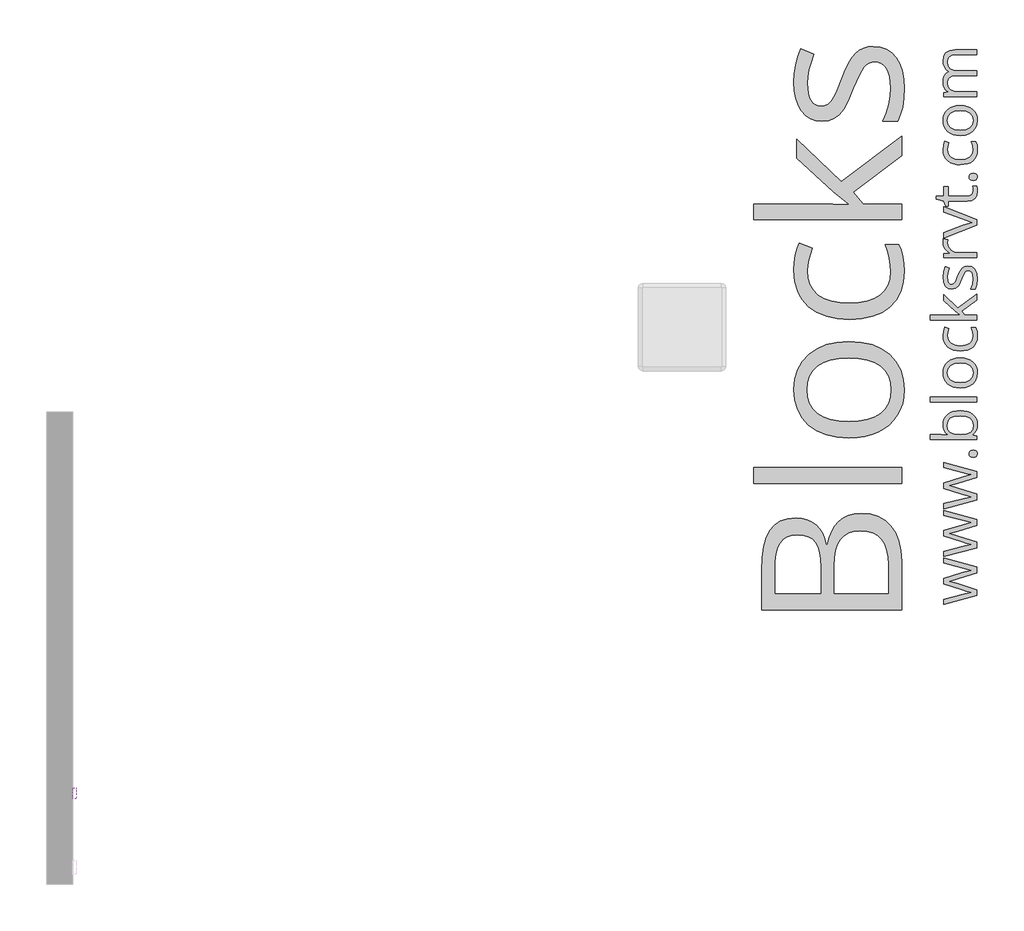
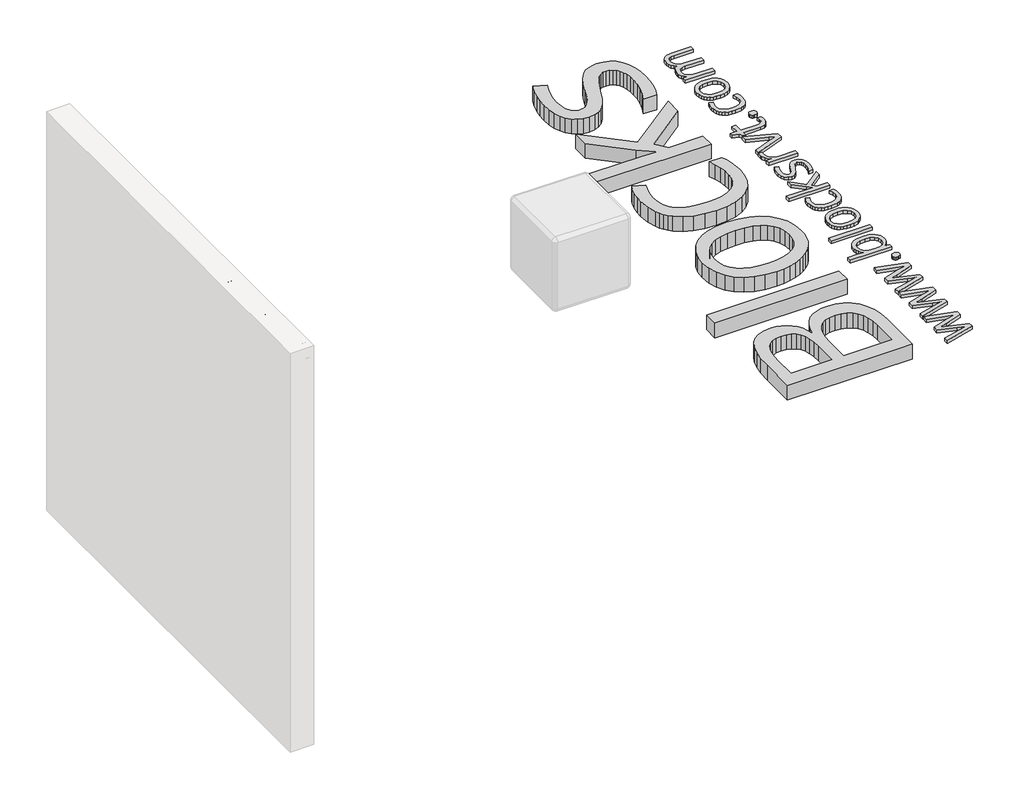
# One storey, part 8 of 8: 3 proxies.
"""IFC4 building model written with IfcOpenShell, lengths in millimetres."""

from ifc_helpers import new_model, si_unit, frame, origin, origin_with_axes, place, context, project, spatial, polyline, outline, extrude, element, save

model = new_model("IFC4")

# Units and contexts
model_context = context("Model", 3, world=origin())
ifc_project = project(units=[si_unit("LENGTHUNIT", "METRE", prefix="MILLI")], contexts=[model_context])

# Site, building, storey
site = spatial("IfcSite", under=ifc_project)
building = spatial("IfcBuilding", under=site)
storey = spatial("IfcBuildingStorey", under=building, Name="PORTOBELLO - SHOWROOM", Elevation=0.0)

# Proxies
placement = place(None, origin())
element("IfcBuildingElementProxy", 1, Name="10mm Arial Narrow", ObjectType="10mm Arial Narrow", at=placement, inside=storey, context=model_context, shape_type="SweptSolid", body=[
    extrude(outline(polyline([(7462.2235233, 2548.8308244), (7462.2235233, 2649.5494281), (7493.520408, 2649.5494281), (7509.8161095, 2647.6711074), (7521.2890956, 2638.1906642), (7525.5787741, 2621.1715554), (7523.7924657, 2609.0957299), (7518.4335405, 2599.4693361), (7508.6897516, 2593.1680777), (7493.7488524, 2591.0676582), (7471.970485, 2591.0676582), (7471.970485, 2548.8308244), (7462.2235233, 2548.8308244)]), holes=[polyline([(7471.970485, 2602.4391135), (7494.9418399, 2602.4391135), (7510.8060353, 2606.9699277), (7515.8318124, 2620.6385184), (7513.3569979, 2630.8042949), (7507.3793691, 2636.6042447), (7494.7133955, 2638.1779729), (7471.970485, 2638.1779729), (7471.970485, 2602.4391135)])]), frame((-9585.374587, 0.0, 0.0), z_axis=(1.0, 0.0, 0.0), x_axis=(0.0, 1.0, 0.0)), (0.0, 0.0, 1.0), 20.0),
    extrude(outline(polyline([(7533.7012421, 2585.3819306), (7535.655711, 2601.9727061), (7541.5191176, 2613.9247909), (7550.3776843, 2621.1493455), (7561.3176335, 2623.5575304), (7572.130669, 2621.1493455), (7581.0146185, 2613.9247909), (7586.9541732, 2602.1630765), (7588.9340248, 2586.143412), (7586.9890745, 2568.9815254), (7581.1542234, 2556.8390702), (7572.3051752, 2549.6145156), (7561.3176335, 2547.2063308), (7550.4570053, 2549.6208613), (7541.5825744, 2556.8644529), (7535.6715752, 2568.8228834), (7533.7012421, 2585.3819306)]), holes=[polyline([(7543.4482038, 2585.4073133), (7544.7522406, 2572.8555619), (7548.6643512, 2563.9843038), (7554.505548, 2558.7110453), (7561.5968433, 2556.9532924), (7568.3169165, 2558.7269095), (7574.0089898, 2564.0477606), (7577.8925448, 2572.9348829), (7579.1870632, 2585.4073133), (7577.8830263, 2597.9209906), (7573.9709157, 2606.7795573), (7568.129719, 2612.0528159), (7561.0384236, 2613.8105687), (7554.2707579, 2612.0432974), (7548.5882031, 2606.7414833), (7544.7332036, 2597.873398), (7543.4482038, 2585.4073133)])]), frame((-9585.374587, 0.0, 0.0), z_axis=(1.0, 0.0, 0.0), x_axis=(0.0, 1.0, 0.0)), (0.0, 0.0, 1.0), 20.0),
    extrude(outline(polyline([(7660.4117436, 2556.9532924), (7662.0362372, 2547.2063308), (7654.6752505, 2547.2063308), (7646.4004862, 2549.3257873), (7642.0854251, 2555.1257371), (7640.9178203, 2569.7715623), (7640.9178203, 2612.1860751), (7632.7953522, 2612.1860751), (7632.7953522, 2615.4350624), (7631.1708586, 2610.5615815), (7623.6068103, 2612.1860751), (7617.5276506, 2609.8635569), (7613.6567869, 2603.3782738), (7611.6769353, 2587.9709673), (7611.6769353, 2548.8308244), (7601.9299737, 2548.8308244), (7601.9299737, 2621.9330368), (7611.6769353, 2621.9330368), (7611.6769353, 2612.2368406), (7617.9210826, 2621.3238517), (7624.3175262, 2623.5575304), (7632.7953522, 2621.9330368), (7640.9178203, 2621.9330368), (7640.9178203, 2638.1779729), (7650.6647819, 2646.3004409), (7650.6647819, 2621.9330368), (7660.4117436, 2621.9330368), (7660.4117436, 2612.1860751), (7650.6647819, 2612.1860751), (7650.6647819, 2567.5378836), (7651.5277942, 2559.5423291), (7656.1474479, 2556.9532924), (7660.4117436, 2556.9532924)])), frame((-9585.374587, 0.0, 0.0), z_axis=(1.0, 0.0, 0.0), x_axis=(0.0, 1.0, 0.0)), (0.0, 0.0, 1.0), 20.0),
    extrude(outline(polyline([(7666.909718, 2585.3819306), (7668.8641869, 2601.9727061), (7674.7275935, 2613.9247909), (7683.5861602, 2621.1493455), (7694.5261094, 2623.5575304), (7705.339145, 2621.1493455), (7714.2230944, 2613.9247909), (7720.1626492, 2602.1630765), (7722.1425007, 2586.143412), (7720.1975504, 2568.9815254), (7714.3626993, 2556.8390702), (7705.5136511, 2549.6145156), (7694.5261094, 2547.2063308), (7683.6654812, 2549.6208613), (7674.7910503, 2556.8644529), (7668.8800511, 2568.8228834), (7666.909718, 2585.3819306)]), holes=[polyline([(7676.6566797, 2585.4073133), (7677.9607166, 2572.8555619), (7681.8728271, 2563.9843038), (7687.7140239, 2558.7110453), (7694.8053192, 2556.9532924), (7701.5253924, 2558.7269095), (7707.2174657, 2564.0477606), (7711.1010207, 2572.9348829), (7712.3955391, 2585.4073133), (7711.0915022, 2597.9209906), (7707.1793916, 2606.7795573), (7701.3381949, 2612.0528159), (7694.2468995, 2613.8105687), (7687.4792338, 2612.0432974), (7681.796679, 2606.7414833), (7677.9416795, 2597.873398), (7676.6566797, 2585.4073133)])]), frame((-9585.374587, 0.0, 0.0), z_axis=(1.0, 0.0, 0.0), x_axis=(0.0, 1.0, 0.0)), (0.0, 0.0, 1.0), 20.0),
    extrude(outline(polyline([(7744.8854113, 2548.8308244), (7735.1384496, 2548.8308244), (7735.1384496, 2649.5494281), (7744.8854113, 2649.5494281), (7744.8854113, 2614.140544), (7752.284472, 2621.2223208), (7761.4857053, 2623.5575304), (7774.367432, 2619.3566915), (7783.6448135, 2606.6272611), (7787.1222451, 2585.9403503), (7785.1899861, 2569.4860068), (7779.3932091, 2557.2832677), (7771.0200868, 2549.725565), (7761.3587918, 2547.2063308), (7752.0179535, 2549.8207502), (7744.8854113, 2557.5878602), (7744.8854113, 2548.8308244)]), holes=[polyline([(7744.8854113, 2585.9403503), (7746.9667937, 2568.692797), (7752.855583, 2559.9611439), (7761.3080263, 2556.9532924), (7767.2507539, 2558.7427737), (7772.4891113, 2564.1112174), (7777.3752834, 2585.5342269), (7772.6667902, 2606.9699277), (7767.4220872, 2612.1004085), (7761.1049646, 2613.8105687), (7755.1273358, 2612.0210875), (7749.8350402, 2606.6526438), (7744.8854113, 2585.9403503)])]), frame((-9585.374587, 0.0, 0.0), z_axis=(1.0, 0.0, 0.0), x_axis=(0.0, 1.0, 0.0)), (0.0, 0.0, 1.0), 20.0),
    extrude(outline(polyline([(7839.1060406, 2571.5737349), (7848.8530022, 2569.9492413), (7845.1534719, 2560.0626747), (7839.334485, 2552.9428238), (7831.6308317, 2548.640454), (7822.2773021, 2547.2063308), (7810.6837481, 2549.6208613), (7801.5396259, 2556.8644529), (7795.6000711, 2568.6705872), (7793.6202195, 2584.7727455), (7795.6095896, 2601.4396692), (7801.5776999, 2613.6201984), (7810.5917358, 2621.0731974), (7821.7188824, 2623.5575304), (7832.4018316, 2621.1588641), (7841.1493489, 2613.962865), (7846.9842, 2602.2233604), (7848.9291504, 2586.1941774), (7848.8530022, 2582.9451902), (7803.3671812, 2582.9451902), (7809.3701927, 2563.5020323), (7815.300229, 2558.5904774), (7822.4042157, 2556.9532924), (7832.5826834, 2560.608403), (7839.1060406, 2571.5737349)]), holes=[polyline([(7804.0271317, 2592.6921518), (7839.1060406, 2592.6921518), (7834.8417449, 2606.9572363), (7829.0164123, 2612.0972356), (7821.7950306, 2613.8105687), (7809.5859458, 2608.0994584), (7804.0271317, 2592.6921518)])]), frame((-9585.374587, 0.0, 0.0), z_axis=(1.0, 0.0, 0.0), x_axis=(0.0, 1.0, 0.0)), (0.0, 0.0, 1.0), 20.0),
    extrude(outline(polyline([(-9565.374587, 7871.5959128), (-9565.374587, 7861.8489511), (-9585.374587, 7861.8489511), (-9585.374587, 7871.5959128), (-9565.374587, 7871.5959128)])), frame((0.0, 0.0, 2548.8308244), z_axis=(0.0, 0.0, 1.0), x_axis=(1.0, 0.0, 0.0)), (0.0, 0.0, 1.0), 100.7186038),
    extrude(outline(polyline([(-9565.374587, 7897.5878105), (-9565.374587, 7887.8408488), (-9585.374587, 7887.8408488), (-9585.374587, 7897.5878105), (-9565.374587, 7897.5878105)])), frame((0.0, 0.0, 2548.8308244), z_axis=(0.0, 0.0, 1.0), x_axis=(1.0, 0.0, 0.0)), (0.0, 0.0, 1.0), 100.7186038),
    extrude(outline(polyline([(7908.9592658, 2585.3819306), (7910.9137346, 2601.9727061), (7916.7771413, 2613.9247909), (7925.635708, 2621.1493455), (7936.5756571, 2623.5575304), (7947.3886927, 2621.1493455), (7956.2726421, 2613.9247909), (7962.2121969, 2602.1630765), (7964.1920485, 2586.143412), (7962.2470981, 2568.9815254), (7956.412247, 2556.8390702), (7947.5631988, 2549.6145156), (7936.5756571, 2547.2063308), (7925.7150289, 2549.6208613), (7916.840598, 2556.8644529), (7910.9295988, 2568.8228834), (7908.9592658, 2585.3819306)]), holes=[polyline([(7918.7062274, 2585.4073133), (7920.0102643, 2572.8555619), (7923.9223749, 2563.9843038), (7929.7635716, 2558.7110453), (7936.854867, 2556.9532924), (7943.5749401, 2558.7269095), (7949.2670134, 2564.0477606), (7953.1505685, 2572.9348829), (7954.4450868, 2585.4073133), (7953.14105, 2597.9209906), (7949.2289394, 2606.7795573), (7943.3877426, 2612.0528159), (7936.2964473, 2613.8105687), (7929.5287815, 2612.0432974), (7923.8462267, 2606.7414833), (7919.9912272, 2597.873398), (7918.7062274, 2585.4073133)])]), frame((-9585.374587, 0.0, 0.0), z_axis=(1.0, 0.0, 0.0), x_axis=(0.0, 1.0, 0.0)), (0.0, 0.0, 1.0), 20.0),
])
element("IfcBuildingElementProxy", 2, Name="25mm OpenSans", ObjectType="25mm OpenSans", at=placement, inside=storey, context=model_context, shape_type="SweptSolid", body=[
    extrude(outline(polyline([(-4417.6445839, 8753.3703802), (-4527.4562273, 8718.8902738), (-4573.1798467, 8706.672323), (-4527.0814435, 8693.2550642), (-4417.6445839, 8657.7255632), (-4417.6445839, 8624.8195486), (-4604.7366397, 8573.4741727), (-4604.7366397, 8603.3069605), (-4497.3985693, 8631.0409591), (-4447.7022419, 8641.9846451), (-4472.887711, 8649.4053636), (-4497.3985693, 8656.7511254), (-4604.7366397, 8691.2312319), (-4604.7366397, 8722.1134142), (-4497.3236125, 8755.7689963), (-4448.002069, 8768.8114714), (-4466.9661275, 8773.9085306), (-4604.7366397, 8809.6629018), (-4604.7366397, 8839.1958626), (-4417.6445839, 8787.1758759), (-4417.6445839, 8753.3703802)])), origin_with_axes(), (0.0, 0.0, 1.0), 20.0),
    extrude(outline(polyline([(-4417.6445839, 9026.8126157), (-4527.4562273, 8992.3325092), (-4573.1798467, 8980.1145585), (-4527.0814435, 8966.6972996), (-4417.6445839, 8931.1677987), (-4417.6445839, 8898.261784), (-4604.7366397, 8846.9164081), (-4604.7366397, 8876.7491959), (-4497.3985693, 8904.4831945), (-4447.7022419, 8915.4268805), (-4472.887711, 8922.8475991), (-4497.3985693, 8930.1933609), (-4604.7366397, 8964.6734673), (-4604.7366397, 8995.5556496), (-4497.3236125, 9029.2112318), (-4448.002069, 9042.2537068), (-4466.9661275, 9047.350766), (-4604.7366397, 9083.1051373), (-4604.7366397, 9112.638098), (-4417.6445839, 9060.6181113), (-4417.6445839, 9026.8126157)])), origin_with_axes(), (0.0, 0.0, 1.0), 20.0),
    extrude(outline(polyline([(-4417.6445839, 9300.2548511), (-4527.4562273, 9265.7747446), (-4573.1798467, 9253.5567939), (-4527.0814435, 9240.1395351), (-4417.6445839, 9204.6100341), (-4417.6445839, 9171.7040195), (-4604.7366397, 9120.3586436), (-4604.7366397, 9150.1914313), (-4497.3985693, 9177.92543), (-4447.7022419, 9188.8691159), (-4472.887711, 9196.2898345), (-4497.3985693, 9203.6355963), (-4604.7366397, 9238.1157027), (-4604.7366397, 9268.997885), (-4497.3236125, 9302.6534672), (-4448.002069, 9315.6959422), (-4466.9661275, 9320.7930014), (-4604.7366397, 9356.5473727), (-4604.7366397, 9386.0803334), (-4417.6445839, 9334.0603467), (-4417.6445839, 9300.2548511)])), origin_with_axes(), (0.0, 0.0, 1.0), 20.0),
    extrude(outline(polyline([(-4436.758556, 9415.2385104), (-4447.1681751, 9416.540884), (-4454.7106984, 9420.4480047), (-4459.2924299, 9426.79122), (-4460.8196737, 9435.401877), (-4459.2924299, 9444.265513), (-4454.7106984, 9450.9179249), (-4447.1681751, 9455.0780247), (-4436.758556, 9456.4647246), (-4426.555068, 9455.0499159), (-4419.0312839, 9450.8054897), (-4414.3933348, 9444.1249691), (-4412.8473517, 9435.401877), (-4418.4316298, 9420.972702), (-4425.8055004, 9416.6720583), (-4436.758556, 9415.2385104)])), origin_with_axes(), (0.0, 0.0, 1.0), 20.0),
    extrude(outline(polyline([(-4609.5338719, 9603.604831), (-4607.9340137, 9621.1892168), (-4603.1344391, 9636.6888679), (-4595.1351482, 9650.1037843), (-4583.9361408, 9661.433966), (-4569.81382, 9670.4358036), (-4553.0445889, 9676.8656876), (-4511.5653956, 9682.0095948), (-4469.9456584, 9676.8188396), (-4453.056965, 9670.3303957), (-4438.7823883, 9661.2465742), (-4427.4358098, 9649.8625173), (-4419.3311109, 9636.4733672), (-4414.4682915, 9621.0791241), (-4412.8473517, 9603.6797877), (-4414.5619875, 9586.036842), (-4419.7058946, 9569.9867272), (-4428.4102476, 9555.979184), (-4440.8062206, 9544.4639528), (-4440.8062206, 9542.3651637), (-4417.6445839, 9536.3686234), (-4417.6445839, 9516.0553433), (-4681.492355, 9516.0553433), (-4681.492355, 9544.388996), (-4618.9034661, 9544.388996), (-4581.1252625, 9543.0397745), (-4593.5540291, 9555.5950306), (-4602.4317196, 9569.1996813), (-4607.7583339, 9585.2029481), (-4609.5338719, 9603.604831)]), holes=[polyline([(-4585.5477109, 9599.6321231), (-4581.3126544, 9574.3623277), (-4568.6074847, 9557.3190359), (-4545.8768494, 9547.621506), (-4511.5653956, 9544.388996), (-4477.1133979, 9547.7152019), (-4454.1110443, 9557.6938197), (-4441.1528956, 9574.9994601), (-4436.8335127, 9600.3067339), (-4441.6775929, 9623.3840442), (-4456.2098334, 9639.6965076), (-4479.8118411, 9649.3940376), (-4511.8652226, 9652.6265475), (-4544.3121271, 9649.3940376), (-4567.2957416, 9639.6965076), (-4580.9847186, 9623.2153915), (-4585.5477109, 9599.6321231)])]), origin_with_axes(), (0.0, 0.0, 1.0), 20.0),
    extrude(outline(polyline([(-4417.6445839, 9759.2900072), (-4417.6445839, 9730.9563546), (-4681.492355, 9730.9563546), (-4681.492355, 9759.2900072), (-4417.6445839, 9759.2900072)])), origin_with_axes(), (0.0, 0.0, 1.0), 20.0),
    extrude(outline(polyline([(-4511.3405253, 9984.2352234), (-4489.4133327, 9982.7946483), (-4470.0299848, 9978.472923), (-4453.1904817, 9971.2700475), (-4438.8948234, 9961.1860218), (-4427.4990546, 9948.5675209), (-4419.3592197, 9933.7612198), (-4414.4753187, 9916.7671184), (-4412.8473517, 9897.5852168), (-4415.8362523, 9873.8895132), (-4424.8029539, 9853.023427), (-4439.3539336, 9835.7927434), (-4459.0956684, 9823.0032474), (-4483.3254389, 9815.0765708), (-4511.3405253, 9812.4343452), (-4533.2583484, 9813.8632083), (-4552.6135875, 9818.1497976), (-4569.4062426, 9825.2941132), (-4583.6363137, 9835.2961549), (-4594.9664955, 9847.8373567), (-4603.0594824, 9862.5991523), (-4607.9152746, 9879.5815416), (-4609.5338719, 9898.7845248), (-4607.8777962, 9917.3808268), (-4602.9095689, 9933.9673508), (-4594.6291901, 9948.5440969), (-4583.0366597, 9961.1110651), (-4568.6191967, 9971.2278843), (-4551.86402, 9978.4541838), (-4532.7711295, 9982.7899635), (-4511.3405253, 9984.2352234)]), holes=[polyline([(-4511.5653956, 9841.8923492), (-4479.4089485, 9845.4715342), (-4455.9474848, 9856.209089), (-4441.6120057, 9873.8801436), (-4436.8335127, 9898.2598276), (-4441.5932666, 9922.6582507), (-4455.872528, 9940.3855228), (-4479.3152526, 9951.1792953), (-4511.5653956, 9954.7772194), (-4543.4876028, 9951.1792953), (-4566.6960875, 9940.3855228), (-4580.8348051, 9922.5645548), (-4585.5477109, 9897.8850438), (-4580.9003923, 9873.5522078), (-4566.9584362, 9856.0216972), (-4543.8155386, 9845.4246862), (-4511.5653956, 9841.8923492)])]), origin_with_axes(), (0.0, 0.0, 1.0), 20.0),
    extrude(outline(polyline([(-4412.8473517, 10109.6378714), (-4414.4331555, 10090.2943443), (-4419.190567, 10073.2651069), (-4427.119586, 10058.5501593), (-4438.2202127, 10046.1495015), (-4452.2207287, 10036.3114276), (-4468.8494159, 10029.284232), (-4509.9913038, 10023.6624755), (-4532.438509, 10025.0889963), (-4552.1825862, 10029.3685584), (-4569.2235356, 10036.5011619), (-4583.561357, 10046.4868069), (-4594.9243323, 10059.1099926), (-4603.0407432, 10074.1552184), (-4607.9105898, 10091.6224842), (-4609.5338719, 10111.5117902), (-4606.7604721, 10138.75857), (-4600.2392346, 10160.0837662), (-4576.7777708, 10151.3138261), (-4583.0366597, 10130.5882839), (-4585.5477109, 10110.7622227), (-4580.8582291, 10085.54396), (-4566.7897835, 10067.5309153), (-4543.3423741, 10056.7230885), (-4510.5160011, 10053.1204795), (-4479.0529039, 10056.6340773), (-4455.872528, 10067.1748707), (-4441.5932666, 10084.6116854), (-4436.8335127, 10108.8133471), (-4439.3633032, 10132.7807689), (-4446.9526744, 10157.3103664), (-4422.2919026, 10157.3103664), (-4415.2084895, 10135.9102134), (-4412.8473517, 10109.6378714)])), origin_with_axes(), (0.0, 0.0, 1.0), 20.0),
    extrude(outline(polyline([(-4511.4904389, 10228.8940656), (-4539.374351, 10251.7558753), (-4604.7366397, 10311.7212778), (-4604.7366397, 10345.077033), (-4524.9826544, 10269.8204528), (-4417.6445839, 10350.3240057), (-4417.6445839, 10316.218683), (-4503.9947635, 10250.631524), (-4486.0051428, 10229.6436331), (-4417.6445839, 10229.6436331), (-4417.6445839, 10201.6098075), (-4681.492355, 10201.6098075), (-4681.492355, 10229.6436331), (-4540.4987023, 10229.6436331), (-4511.4904389, 10228.8940656)])), origin_with_axes(), (0.0, 0.0, 1.0), 20.0),
    extrude(outline(polyline([(-4468.0904788, 10510.5815439), (-4444.6009063, 10505.6812461), (-4427.20157, 10490.9803529), (-4416.4359063, 10467.4345629), (-4412.8473517, 10435.9995745), (-4415.8081435, 10402.7000369), (-4424.6905187, 10377.6082638), (-4451.2252093, 10377.6082638), (-4440.6937855, 10406.7664408), (-4436.8335127, 10436.749142), (-4438.6137356, 10456.5658337), (-4443.9544043, 10471.1917701), (-4452.9492147, 10480.2146893), (-4465.6918627, 10483.222329), (-4475.9796771, 10480.8330825), (-4484.6559212, 10473.665343), (-4503.245196, 10436.449315), (-4520.4852492, 10399.0458952), (-4537.1631268, 10382.5179312), (-4559.5377176, 10377.0835666), (-4580.2632599, 10381.7683636), (-4596.1166131, 10395.8227548), (-4606.1795572, 10418.0474321), (-4609.5338719, 10447.2430875), (-4606.4231667, 10477.2820063), (-4597.0910509, 10506.6837927), (-4573.9294142, 10496.4896743), (-4582.6431368, 10469.4302864), (-4585.5477109, 10445.0693416), (-4583.9455103, 10427.2483736), (-4579.1389086, 10414.4120296), (-4571.5026893, 10406.6540057), (-4561.4116364, 10404.0679977), (-4548.4066398, 10407.9282705), (-4538.2125213, 10420.4085699), (-4524.1581301, 10453.464498), (-4511.8277442, 10481.5451716), (-4499.4224016, 10498.7758553), (-4485.3680104, 10507.6301217), (-4468.0904788, 10510.5815439)])), origin_with_axes(), (0.0, 0.0, 1.0), 20.0),
    extrude(outline(polyline([(-4609.5338719, 10643.0301267), (-4607.6599531, 10665.6670661), (-4582.9991813, 10661.6943582), (-4585.5477109, 10641.0062943), (-4580.8535443, 10619.6717285), (-4566.7710443, 10601.6914773), (-4545.6800879, 10589.464157), (-4519.960552, 10585.3883835), (-4417.6445839, 10585.3883835), (-4417.6445839, 10557.0547308), (-4604.7366397, 10557.0547308), (-4604.7366397, 10580.4412378), (-4571.1560143, 10583.6643782), (-4587.4778473, 10596.6506357), (-4599.5646238, 10610.4239391), (-4607.0415599, 10625.9962045), (-4609.5338719, 10643.0301267)])), origin_with_axes(), (0.0, 0.0, 1.0), 20.0),
    extrude(outline(polyline([(-4417.6445839, 10742.6476516), (-4604.7366397, 10670.6891686), (-4604.7366397, 10701.4963941), (-4493.8006451, 10742.3478246), (-4443.2797935, 10758.5384832), (-4480.7581701, 10771.9557421), (-4604.7366397, 10817.3795344), (-4604.7366397, 10848.18676), (-4417.6445839, 10776.228277), (-4417.6445839, 10742.6476516)])), origin_with_axes(), (0.0, 0.0, 1.0), 20.0),
    extrude(outline(polyline([(-4436.8335127, 10939.5590421), (-4437.957864, 10954.2505657), (-4440.2815234, 10965.4940786), (-4418.0943245, 10965.4940786), (-4414.3464868, 10951.7769928), (-4412.8473517, 10935.5113774), (-4416.4077975, 10911.5064772), (-4427.0891348, 10894.3601199), (-4444.8913637, 10884.0723055), (-4469.8144841, 10880.6430341), (-4580.7504787, 10880.6430341), (-4580.7504787, 10853.5086895), (-4594.7673916, 10853.5086895), (-4606.9103856, 10880.4931206), (-4647.9117296, 10892.5611578), (-4647.9117296, 10909.0516435), (-4604.7366397, 10909.0516435), (-4604.7366397, 10964.1448571), (-4580.7504787, 10964.1448571), (-4580.7504787, 10909.0516435), (-4471.5384894, 10909.0516435), (-4456.7064219, 10911.0848455), (-4445.7908447, 10917.1844512), (-4439.0728457, 10926.8445028), (-4436.8335127, 10939.5590421)])), origin_with_axes(), (0.0, 0.0, 1.0), 20.0),
    extrude(outline(polyline([(-4436.758556, 10998.3251365), (-4447.1681751, 10999.6275101), (-4454.7106984, 11003.5346308), (-4459.2924299, 11009.8778461), (-4460.8196737, 11018.4885031), (-4459.2924299, 11027.3521392), (-4454.7106984, 11034.004551), (-4447.1681751, 11038.1646508), (-4436.758556, 11039.5513507), (-4426.555068, 11038.136542), (-4419.0312839, 11033.8921159), (-4414.3933348, 11027.2115952), (-4412.8473517, 11018.4885031), (-4418.4316298, 11004.0593281), (-4425.8055004, 10999.7586844), (-4436.758556, 10998.3251365)])), origin_with_axes(), (0.0, 0.0, 1.0), 20.0),
    extrude(outline(polyline([(-4412.8473517, 11174.6234199), (-4414.4331555, 11155.2798928), (-4419.190567, 11138.2506554), (-4427.119586, 11123.5357078), (-4438.2202127, 11111.13505), (-4452.2207287, 11101.2969761), (-4468.8494159, 11094.2697805), (-4509.9913038, 11088.648024), (-4532.438509, 11090.0745447), (-4552.1825862, 11094.3541069), (-4569.2235356, 11101.4867104), (-4583.561357, 11111.4723554), (-4594.9243323, 11124.0955411), (-4603.0407432, 11139.1407669), (-4607.9105898, 11156.6080327), (-4609.5338719, 11176.4973387), (-4606.7604721, 11203.7441185), (-4600.2392346, 11225.0693147), (-4576.7777708, 11216.2993746), (-4583.0366597, 11195.5738324), (-4585.5477109, 11175.7477712), (-4580.8582291, 11150.5295085), (-4566.7897835, 11132.5164638), (-4543.3423741, 11121.708637), (-4510.5160011, 11118.106028), (-4479.0529039, 11121.6196258), (-4455.872528, 11132.1604192), (-4441.5932666, 11149.5972339), (-4436.8335127, 11173.7988956), (-4439.3633032, 11197.7663174), (-4446.9526744, 11222.2959149), (-4422.2919026, 11222.2959149), (-4415.2084895, 11200.8957618), (-4412.8473517, 11174.6234199)])), origin_with_axes(), (0.0, 0.0, 1.0), 20.0),
    extrude(outline(polyline([(-4511.3405253, 11428.2021157), (-4489.4133327, 11426.7615406), (-4470.0299848, 11422.4398153), (-4453.1904817, 11415.2369398), (-4438.8948234, 11405.1529141), (-4427.4990546, 11392.5344132), (-4419.3592197, 11377.7281121), (-4414.4753187, 11360.7340107), (-4412.8473517, 11341.5521091), (-4415.8362523, 11317.8564055), (-4424.8029539, 11296.9903194), (-4439.3539336, 11279.7596357), (-4459.0956684, 11266.9701397), (-4483.3254389, 11259.0434631), (-4511.3405253, 11256.4012375), (-4533.2583484, 11257.8301006), (-4552.6135875, 11262.11669), (-4569.4062426, 11269.2610055), (-4583.6363137, 11279.2630472), (-4594.9664955, 11291.804249), (-4603.0594824, 11306.5660446), (-4607.9152746, 11323.548434), (-4609.5338719, 11342.7514171), (-4607.8777962, 11361.3477191), (-4602.9095689, 11377.9342431), (-4594.6291901, 11392.5109892), (-4583.0366597, 11405.0779574), (-4568.6191967, 11415.1947766), (-4551.86402, 11422.4210761), (-4532.7711295, 11426.7568558), (-4511.3405253, 11428.2021157)]), holes=[polyline([(-4511.5653956, 11285.8592415), (-4479.4089485, 11289.4384265), (-4455.9474848, 11300.1759814), (-4441.6120057, 11317.8470359), (-4436.8335127, 11342.2267199), (-4441.5932666, 11366.625143), (-4455.872528, 11384.3524151), (-4479.3152526, 11395.1461876), (-4511.5653956, 11398.7441117), (-4543.4876028, 11395.1461876), (-4566.6960875, 11384.3524151), (-4580.8348051, 11366.5314471), (-4585.5477109, 11341.8519361), (-4580.9003923, 11317.5191001), (-4566.9584362, 11299.9885895), (-4543.8155386, 11289.3915785), (-4511.5653956, 11285.8592415)])]), origin_with_axes(), (0.0, 0.0, 1.0), 20.0),
    extrude(outline(polyline([(-4417.6445839, 11717.2353558), (-4540.4237456, 11717.2353558), (-4560.1654804, 11714.8367397), (-4574.2667196, 11707.6408914), (-4582.7274631, 11695.3854623), (-4585.5477109, 11677.8081036), (-4581.7155469, 11654.7401629), (-4570.2190549, 11638.6057218), (-4550.7584079, 11629.1049533), (-4523.0337788, 11625.9380305), (-4417.6445839, 11625.9380305), (-4417.6445839, 11597.529421), (-4540.4237456, 11597.529421), (-4560.1654804, 11595.1308049), (-4574.2667196, 11587.9349566), (-4582.7274631, 11575.6420491), (-4585.5477109, 11557.9522554), (-4581.5187855, 11534.7718795), (-4569.432009, 11518.7498735), (-4548.1817695, 11509.4177577), (-4516.6624548, 11506.3070525), (-4417.6445839, 11506.3070525), (-4417.6445839, 11477.9733998), (-4604.7366397, 11477.9733998), (-4604.7366397, 11501.0600798), (-4580.7504787, 11505.6324417), (-4592.8278856, 11516.7166716), (-4601.9257615, 11529.7310378), (-4607.6318443, 11545.2564553), (-4609.5338719, 11562.5246173), (-4607.5662572, 11582.6223968), (-4601.6634129, 11598.916121), (-4591.825339, 11611.40579), (-4578.0520356, 11620.0914037), (-4591.0757715, 11631.7190701), (-4601.0637588, 11645.7640917), (-4607.4163437, 11662.8073834), (-4609.5338719, 11682.0806386), (-4605.4299897, 11709.936442), (-4593.118343, 11729.7906119), (-4571.7744076, 11741.6806269), (-4540.5736591, 11745.6439652), (-4417.6445839, 11745.6439652), (-4417.6445839, 11717.2353558)])), origin_with_axes(), (0.0, 0.0, 1.0), 20.0),
])
element("IfcBuildingElementProxy", 3, Name="80mm OpenSans", ObjectType="80mm OpenSans", at=placement, inside=storey, context=model_context, shape_type="SweptSolid", body=[
    extrude(outline(polyline([(-5647.0279909, 8542.5162261), (-5647.0279909, 8767.4993467), (-5644.0910118, 8841.3294446), (-5635.2800742, 8904.1777943), (-5620.5951784, 8956.0443958), (-5600.0363242, 8996.9292491), (-5573.1378014, 9027.8989809), (-5539.4338997, 9050.0202178), (-5498.9246192, 9063.29296), (-5451.6099599, 9067.7172074), (-5417.951127, 9065.2459385), (-5387.4020367, 9057.8321318), (-5359.9626891, 9045.4757872), (-5335.6330842, 9028.1769047), (-5314.8488863, 9006.1458052), (-5298.0457599, 8979.5928094), (-5285.2237051, 8948.5179172), (-5276.3827217, 8912.9211287), (-5271.0946569, 8912.9211287), (-5261.1795354, 8955.4547465), (-5247.1781821, 8992.3172153), (-5229.0905968, 9023.508535), (-5206.9167796, 9049.0287057), (-5180.6567305, 9068.8777273), (-5150.3104496, 9083.0555999), (-5115.8779367, 9091.5623235), (-5077.359192, 9094.397898), (-5026.1235528, 9089.8835132), (-4980.8219636, 9076.3403586), (-4941.4544243, 9053.7684342), (-4908.0209351, 9022.1677402), (-4881.3627789, 8982.4696969), (-4862.3212387, 8935.6057249), (-4850.8963146, 8881.5758242), (-4847.0880066, 8820.3799947), (-4847.0880066, 8542.5162261), (-5647.0279909, 8542.5162261)]), holes=[polyline([(-5308.5918437, 8635.5380933), (-5308.5918437, 8787.449773), (-5310.5222878, 8832.9316372), (-5316.3136202, 8871.5480308), (-5325.9658407, 8903.298954), (-5339.4789495, 8928.1844067), (-5357.5590233, 8946.9555344), (-5380.912139, 8960.3634828), (-5409.5382966, 8968.4082519), (-5443.4374961, 8971.0898415), (-5474.640083, 8968.1002822), (-5501.1855674, 8959.1316041), (-5523.0739493, 8944.1838073), (-5540.3052286, 8923.2568918), (-5553.3451157, 8895.8250556), (-5562.6593207, 8861.3624969), (-5568.2478437, 8819.8692157), (-5570.1106847, 8771.345212), (-5570.1106847, 8635.5380933), (-5308.5918437, 8635.5380933)]), polyline([(-5231.6745375, 8635.5380933), (-4924.0053128, 8635.5380933), (-4924.0053128, 8801.1506682), (-4926.4164901, 8846.2569596), (-4933.6500219, 8885.4292009), (-4945.7059082, 8918.6673923), (-4962.5841492, 8945.9715337), (-4984.5852029, 8967.2665106), (-5012.0095276, 8982.4772084), (-5044.8571233, 8991.603627), (-5083.12799, 8994.6457666), (-5118.8224274, 8991.5360239), (-5149.4691665, 8982.206796), (-5175.0682075, 8966.6580827), (-5195.6195503, 8944.8898841), (-5211.3936072, 8916.782017), (-5222.6607907, 8882.2142979), (-5229.4211008, 8841.186727), (-5231.6745375, 8793.6993042), (-5231.6745375, 8635.5380933)])]), origin_with_axes(), (0.0, 0.0, 1.0), 100.0),
    extrude(outline(polyline([(-4847.0880066, 9356.1571056), (-4847.0880066, 9265.2985377), (-5693.1783746, 9265.2985377), (-5693.1783746, 9356.1571056), (-4847.0880066, 9356.1571056)])), origin_with_axes(), (0.0, 0.0, 1.0), 100.0),
    extrude(outline(polyline([(-5147.5462339, 10077.4972177), (-5077.2314972, 10072.8776725), (-5015.0742015, 10059.0190367), (-4961.0743466, 10035.9213105), (-4915.2319325, 10003.5844938), (-4878.6887007, 9963.120282), (-4852.5863922, 9915.6403707), (-4836.9250071, 9861.1447597), (-4831.7045454, 9799.6334491), (-4834.1006997, 9760.5062765), (-4841.2891628, 9723.6475634), (-4853.2699346, 9689.05731), (-4870.0430152, 9656.7355162), (-4891.2929233, 9627.3281672), (-4916.7041779, 9601.4812482), (-4946.2767789, 9579.1947592), (-4980.0107263, 9560.4687002), (-5017.3426611, 9545.6410867), (-5057.7092239, 9535.0499342), (-5101.1104149, 9528.6952427), (-5147.5462339, 9526.5770122), (-5217.8309247, 9531.1590001), (-5279.898083, 9544.904964), (-5333.7477088, 9567.8149038), (-5379.3798021, 9599.8888196), (-5415.7127132, 9640.1051533), (-5441.6647926, 9687.442347), (-5457.2360402, 9741.9004007), (-5462.4264561, 9803.4793144), (-5457.1158569, 9863.1127611), (-5441.1840594, 9916.3013788), (-5414.6310636, 9963.0451675), (-5377.4568694, 10003.3441272), (-5331.2238597, 10035.7861043), (-5277.4944172, 10058.9589451), (-5216.2685419, 10072.8626496), (-5147.5462339, 10077.4972177)]), holes=[polyline([(-5148.2673336, 9621.0410788), (-5093.2233864, 9623.9104549), (-5045.15007, 9632.5185831), (-5004.0473845, 9646.8654634), (-4969.9153299, 9666.9510959), (-4943.0994331, 9692.5952056), (-4923.9452211, 9723.6175176), (-4912.4526939, 9760.0180318), (-4908.6218515, 9801.7967483), (-4912.437671, 9843.5904878), (-4923.8851295, 9880.0360707), (-4942.9642269, 9911.1334973), (-4969.6749633, 9936.8827673), (-5003.7319034, 9957.0735602), (-5044.8496118, 9971.4955551), (-5093.0280885, 9980.1487521), (-5148.2673336, 9983.033151), (-5202.9432195, 9980.1487521), (-5250.6334517, 9971.4955551), (-5291.33803, 9957.0735602), (-5325.0569546, 9936.8827673), (-5351.50479, 9911.0583827), (-5370.3961011, 9879.7356125), (-5381.7308877, 9842.9144568), (-5385.5091499, 9800.5949154), (-5381.7834679, 9758.8537562), (-5370.6064218, 9722.5659138), (-5351.9780117, 9691.7313882), (-5325.8982376, 9666.3501795), (-5292.442214, 9646.5274479), (-5251.6850555, 9632.368354), (-5203.626762, 9623.8728976), (-5148.2673336, 9621.0410788)])]), origin_with_axes(), (0.0, 0.0, 1.0), 100.0),
    extrude(outline(polyline([(-4831.7045454, 10479.6305091), (-4836.7898009, 10417.6009081), (-4852.0455673, 10362.9926253), (-4877.4718448, 10315.8056607), (-4913.0686333, 10276.0400143), (-4957.9646039, 10244.4919004), (-5011.2884278, 10221.9575334), (-5073.040105, 10208.4369132), (-5143.2196354, 10203.9300397), (-5215.2019152, 10208.5045163), (-5278.5159752, 10222.2279458), (-5333.1618152, 10245.1003283), (-5379.1394355, 10277.1216639), (-5398.6598309, 10296.3904256), (-5415.577507, 10317.6008986), (-5429.8924637, 10340.7530829), (-5441.6047009, 10365.8469784), (-5457.2210173, 10421.8599035), (-5462.4264561, 10485.6396737), (-5460.2030652, 10529.3563457), (-5453.5328926, 10573.0129261), (-5443.8581376, 10611.9222666), (-5432.6209999, 10641.3972187), (-5357.3862598, 10613.2743286), (-5377.4568694, 10546.8129687), (-5383.4960798, 10512.9513265), (-5385.5091499, 10483.2360078), (-5381.7496663, 10439.9136872), (-5370.4712156, 10402.367676), (-5351.6737978, 10370.5979742), (-5325.3574128, 10344.6045818), (-5291.5220607, 10324.3874988), (-5250.1677414, 10309.9467252), (-5201.294455, 10301.2822611), (-5144.9022015, 10298.3941064), (-5091.1352017, 10301.2109023), (-5044.0083288, 10309.6612899), (-5003.5215826, 10323.7452693), (-4969.6749633, 10343.4628405), (-4942.9642269, 10368.708843), (-4923.8851295, 10399.3781166), (-4912.437671, 10435.4706612), (-4908.6218515, 10476.9864767), (-4910.6499446, 10515.1897403), (-4916.7342237, 10553.8436912), (-4926.8746889, 10592.9483295), (-4941.0713401, 10632.5036552), (-4861.9907347, 10632.5036552), (-4848.7405268, 10600.1443041), (-4839.2760927, 10563.878996), (-4833.5974322, 10523.7077311), (-4831.7045454, 10479.6305091)])), origin_with_axes(), (0.0, 0.0, 1.0), 100.0),
    extrude(outline(polyline([(-5148.026967, 10864.21704), (-5237.4433355, 10935.3655483), (-5447.0429948, 11127.6588137), (-5447.0429948, 11234.6219426), (-5191.2929518, 10993.2938945), (-4847.0880066, 11251.4476034), (-4847.0880066, 11142.0808086), (-5123.9903089, 10931.7600495), (-5066.3023292, 10864.4574066), (-4847.0880066, 10864.4574066), (-4847.0880066, 10774.560305), (-5693.1783746, 10774.560305), (-5693.1783746, 10864.4574066), (-5241.0488342, 10864.4574066), (-5148.026967, 10859.8904416), (-5148.026967, 10864.21704)])), origin_with_axes(), (0.0, 0.0, 1.0), 100.0),
    extrude(outline(polyline([(-5008.8547162, 11765.3513553), (-4968.7510543, 11761.422864), (-4933.5298386, 11749.63739), (-4903.1910691, 11729.9949334), (-4877.7347458, 11702.4954942), (-4857.5965331, 11667.9052408), (-4843.2120955, 11626.9903417), (-4834.5814329, 11579.7507969), (-4831.7045454, 11526.1866064), (-4834.0781654, 11469.5051618), (-4841.1990253, 11419.4037524), (-4853.0671253, 11375.8823782), (-4869.6824653, 11338.9410392), (-4954.7722353, 11338.9410392), (-4935.6330462, 11384.0698649), (-4921.0007305, 11432.4436395), (-4911.7165713, 11481.4784222), (-4908.6218515, 11528.5902722), (-4910.0490281, 11562.444403), (-4914.3305579, 11592.1371873), (-4921.4664408, 11617.6686252), (-4931.4566768, 11639.0387166), (-4944.3763806, 11655.9169575), (-4960.3006666, 11667.9728439), (-4979.229535, 11675.2063757), (-5001.1629856, 11677.617553), (-5018.3041274, 11675.7021318), (-5034.1532989, 11669.9558682), (-5048.7105, 11660.3787622), (-5061.9757308, 11646.9708138), (-5089.4977044, 11601.8119422), (-5121.586643, 11527.6288059), (-5151.2719159, 11455.4587397), (-5176.8709569, 11407.6858816), (-5202.0193105, 11376.6485467), (-5230.3525213, 11354.6850503), (-5263.2526972, 11341.6151174), (-5302.101946, 11337.2584731), (-5337.2856044, 11341.0142009), (-5368.5633059, 11352.2813844), (-5395.9350504, 11371.0600236), (-5419.4008379, 11397.3501185), (-5438.2245459, 11430.1902028), (-5451.6700515, 11468.61881), (-5459.7373549, 11512.6359403), (-5462.4264561, 11562.2415937), (-5459.9326528, 11610.660437), (-5452.4512429, 11658.5685013), (-5439.9822265, 11705.9657867), (-5422.5256035, 11752.8522931), (-5348.2523297, 11720.1624379), (-5364.5521885, 11675.6946203), (-5376.1949449, 11633.3901019), (-5383.1805986, 11593.2488827), (-5385.5091499, 11555.2709628), (-5380.3713142, 11498.123808), (-5373.9490196, 11475.5443722), (-5364.9578072, 11456.9610308), (-5353.6981351, 11442.4488985), (-5340.4704616, 11432.0830896), (-5325.2747868, 11425.8636043), (-5308.1111105, 11423.7904425), (-5285.4265144, 11426.8851623), (-5266.4075086, 11436.1693215), (-5249.6419395, 11452.36402), (-5233.7176535, 11476.1903574), (-5214.6986477, 11516.5118515), (-5188.6489194, 11582.19202), (-5168.9088138, 11631.5648182), (-5149.1086167, 11672.2393507), (-5129.2483278, 11704.2156175), (-5109.3279474, 11727.4936187), (-5088.0855507, 11744.0563785), (-5064.2592133, 11755.8869212), (-5037.8489351, 11762.9852468), (-5008.8547162, 11765.3513553)])), origin_with_axes(), (0.0, 0.0, 1.0), 100.0),
])

save(model, "model.ifc")
